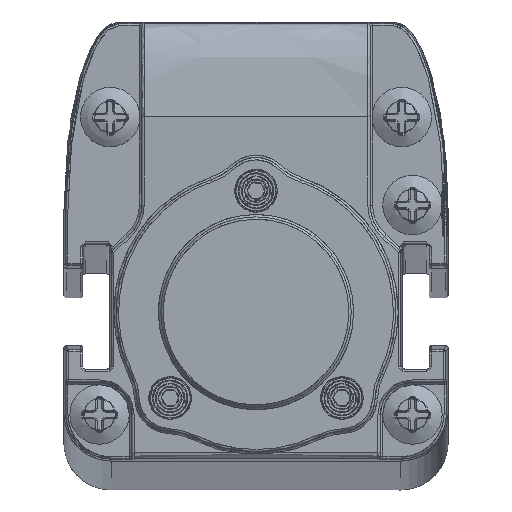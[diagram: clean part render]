
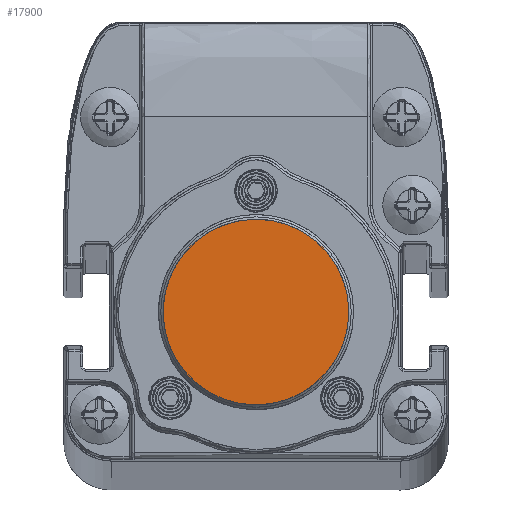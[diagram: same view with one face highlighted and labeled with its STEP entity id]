
A CAD part, top view. The second image highlights one B-rep face of the part: STEP entity #17900.
In plain terms, the highlighted planar face has unit normal (0, 0, 1).
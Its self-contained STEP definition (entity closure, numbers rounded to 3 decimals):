
#15149=B_SPLINE_CURVE_WITH_KNOTS('',3,(#62878,#62879,#62880,#62881,#62882,
#62883,#62884,#62885,#62886,#62887,#62888,#62889,#62890,#62891,#62892,#62893,
#62894,#62895,#62896,#62897,#62898,#62899,#62900,#62901,#62902,#62903,#62904,
#62905,#62906,#62907,#62908,#62909,#62910,#62911,#62912,#62913,#62914,#62915,
#62916,#62917,#62918,#62919,#62920,#62921,#62922,#62923,#62924,#62925,#62926,
#62927,#62928,#62929,#62930,#62931,#62932,#62933,#62934,#62935,#62936,#62937,
#62938,#62939,#62940,#62941,#62942,#62943,#62944,#62945,#62946,#62947,#62948,
#62949,#62950,#62951,#62952,#62953,#62954,#62955,#62956,#62957,#62958,#62959,
#62960,#62961,#62962,#62963,#62964,#62965,#62966,#62967,#62968,#62969,#62970,
#62971,#62972,#62973,#62974,#62975,#62976,#62977,#62978,#62979,#62980),
 .UNSPECIFIED.,.T.,.F.,(1,3,3,3,3,3,3,3,3,3,3,3,3,3,3,3,3,3,3,3,3,3,3,3,
3,3,3,3,3,3,3,3,3,3,3,3,1),(-0.029,0.,0.029,0.059,
0.088,0.118,0.147,0.176,
0.206,0.235,0.265,0.294,
0.324,0.353,0.382,0.412,
0.441,0.471,0.5,0.529,0.559,
0.588,0.618,0.647,0.676,
0.706,0.735,0.765,0.794,
0.824,0.853,0.882,0.912,
0.941,0.971,1.,1.029),.UNSPECIFIED.);
#17900=ADVANCED_FACE('',(#19885),#18796,.T.);
#18796=PLANE('',#43165);
#19885=FACE_OUTER_BOUND('',#21351,.T.);
#21351=EDGE_LOOP('',(#27620));
#27620=ORIENTED_EDGE('',*,*,#36541,.T.);
#31638=VERTEX_POINT('',#62981);
#36541=EDGE_CURVE('',#31638,#31638,#15149,.T.);
#43165=AXIS2_PLACEMENT_3D('',#62982,#47079,#47080);
#47079=DIRECTION('',(0.,0.,1.));
#47080=DIRECTION('',(1.,0.,0.));
#62878=CARTESIAN_POINT('',(7.8,0.,1433.24));
#62879=CARTESIAN_POINT('',(7.8,0.465,1433.24));
#62880=CARTESIAN_POINT('',(7.759,0.925,1433.24));
#62881=CARTESIAN_POINT('',(7.679,1.376,1433.24));
#62882=CARTESIAN_POINT('',(7.638,1.601,1433.24));
#62883=CARTESIAN_POINT('',(7.588,1.825,1433.24));
#62884=CARTESIAN_POINT('',(7.527,2.047,1433.24));
#62885=CARTESIAN_POINT('',(7.466,2.269,1433.24));
#62886=CARTESIAN_POINT('',(7.407,2.458,1433.24));
#62887=CARTESIAN_POINT('',(7.315,2.708,1433.24));
#62888=CARTESIAN_POINT('',(7.129,3.209,1433.24));
#62889=CARTESIAN_POINT('',(6.898,3.683,1433.24));
#62890=CARTESIAN_POINT('',(6.62,4.128,1433.24));
#62891=CARTESIAN_POINT('',(6.343,4.573,1433.24));
#62892=CARTESIAN_POINT('',(6.043,4.965,1433.24));
#62893=CARTESIAN_POINT('',(5.651,5.376,1433.24));
#62894=CARTESIAN_POINT('',(4.868,6.2,1433.24));
#62895=CARTESIAN_POINT('',(3.912,6.837,1433.24));
#62896=CARTESIAN_POINT('',(2.89,7.245,1433.24));
#62897=CARTESIAN_POINT('',(2.378,7.449,1433.24));
#62898=CARTESIAN_POINT('',(1.856,7.597,1433.24));
#62899=CARTESIAN_POINT('',(1.324,7.689,1433.24));
#62900=CARTESIAN_POINT('',(1.058,7.734,1433.24));
#62901=CARTESIAN_POINT('',(0.79,7.766,1433.24));
#62902=CARTESIAN_POINT('',(0.52,7.784,1433.24));
#62903=CARTESIAN_POINT('',(0.249,7.801,1433.24));
#62904=CARTESIAN_POINT('',(-0.055,7.804,1433.24));
#62905=CARTESIAN_POINT('',(-0.3,7.794,1433.24));
#62906=CARTESIAN_POINT('',(-0.79,7.775,1433.24));
#62907=CARTESIAN_POINT('',(-1.271,7.712,1433.24));
#62908=CARTESIAN_POINT('',(-1.742,7.604,1433.24));
#62909=CARTESIAN_POINT('',(-2.213,7.496,1433.24));
#62910=CARTESIAN_POINT('',(-2.713,7.327,1433.24));
#62911=CARTESIAN_POINT('',(-3.123,7.147,1433.24));
#62912=CARTESIAN_POINT('',(-3.534,6.968,1433.24));
#62913=CARTESIAN_POINT('',(-3.924,6.757,1433.24));
#62914=CARTESIAN_POINT('',(-4.293,6.513,1433.24));
#62915=CARTESIAN_POINT('',(-4.477,6.392,1433.24));
#62916=CARTESIAN_POINT('',(-4.656,6.262,1433.24));
#62917=CARTESIAN_POINT('',(-4.83,6.125,1433.24));
#62918=CARTESIAN_POINT('',(-5.004,5.987,1433.24));
#62919=CARTESIAN_POINT('',(-5.15,5.864,1433.24));
#62920=CARTESIAN_POINT('',(-5.337,5.688,1433.24));
#62921=CARTESIAN_POINT('',(-5.712,5.337,1433.24));
#62922=CARTESIAN_POINT('',(-6.047,4.956,1433.24));
#62923=CARTESIAN_POINT('',(-6.341,4.545,1433.24));
#62924=CARTESIAN_POINT('',(-6.635,4.134,1433.24));
#62925=CARTESIAN_POINT('',(-6.869,3.738,1433.24));
#62926=CARTESIAN_POINT('',(-7.102,3.226,1433.24));
#62927=CARTESIAN_POINT('',(-7.567,2.203,1433.24));
#62928=CARTESIAN_POINT('',(-7.8,1.124,1433.24));
#62929=CARTESIAN_POINT('',(-7.8,0.,1433.24));
#62930=CARTESIAN_POINT('',(-7.8,-0.562,1433.24));
#62931=CARTESIAN_POINT('',(-7.742,-1.113,1433.24));
#62932=CARTESIAN_POINT('',(-7.626,-1.651,1433.24));
#62933=CARTESIAN_POINT('',(-7.509,-2.189,1433.24));
#62934=CARTESIAN_POINT('',(-7.314,-2.758,1433.24));
#62935=CARTESIAN_POINT('',(-7.102,-3.226,1433.24));
#62936=CARTESIAN_POINT('',(-6.889,-3.694,1433.24));
#62937=CARTESIAN_POINT('',(-6.636,-4.134,1433.24));
#62938=CARTESIAN_POINT('',(-6.341,-4.544,1433.24));
#62939=CARTESIAN_POINT('',(-6.194,-4.75,1433.24));
#62940=CARTESIAN_POINT('',(-6.037,-4.947,1433.24));
#62941=CARTESIAN_POINT('',(-5.87,-5.138,1433.24));
#62942=CARTESIAN_POINT('',(-5.702,-5.329,1433.24));
#62943=CARTESIAN_POINT('',(-5.5,-5.535,1433.24));
#62944=CARTESIAN_POINT('',(-5.337,-5.688,1433.24));
#62945=CARTESIAN_POINT('',(-5.01,-5.995,1433.24));
#62946=CARTESIAN_POINT('',(-4.662,-6.27,1433.24));
#62947=CARTESIAN_POINT('',(-4.293,-6.513,1433.24));
#62948=CARTESIAN_POINT('',(-3.924,-6.756,1433.24));
#62949=CARTESIAN_POINT('',(-3.573,-6.951,1433.24));
#62950=CARTESIAN_POINT('',(-3.123,-7.147,1433.24));
#62951=CARTESIAN_POINT('',(-2.674,-7.344,1433.24));
#62952=CARTESIAN_POINT('',(-2.213,-7.496,1433.24));
#62953=CARTESIAN_POINT('',(-1.743,-7.604,1433.24));
#62954=CARTESIAN_POINT('',(-1.507,-7.658,1433.24));
#62955=CARTESIAN_POINT('',(-1.27,-7.701,1433.24));
#62956=CARTESIAN_POINT('',(-1.029,-7.732,1433.24));
#62957=CARTESIAN_POINT('',(-0.789,-7.764,1433.24));
#62958=CARTESIAN_POINT('',(-0.575,-7.784,1433.24));
#62959=CARTESIAN_POINT('',(-0.3,-7.794,1433.24));
#62960=CARTESIAN_POINT('',(0.801,-7.837,1433.24));
#62961=CARTESIAN_POINT('',(1.834,-7.666,1433.24));
#62962=CARTESIAN_POINT('',(2.89,-7.245,1433.24));
#62963=CARTESIAN_POINT('',(3.417,-7.035,1433.24));
#62964=CARTESIAN_POINT('',(3.912,-6.774,1433.24));
#62965=CARTESIAN_POINT('',(4.372,-6.462,1433.24));
#62966=CARTESIAN_POINT('',(4.833,-6.15,1433.24));
#62967=CARTESIAN_POINT('',(5.283,-5.763,1433.24));
#62968=CARTESIAN_POINT('',(5.651,-5.376,1433.24));
#62969=CARTESIAN_POINT('',(6.019,-4.989,1433.24));
#62970=CARTESIAN_POINT('',(6.342,-4.573,1433.24));
#62971=CARTESIAN_POINT('',(6.62,-4.128,1433.24));
#62972=CARTESIAN_POINT('',(6.759,-3.906,1433.24));
#62973=CARTESIAN_POINT('',(6.886,-3.676,1433.24));
#62974=CARTESIAN_POINT('',(7.002,-3.44,1433.24));
#62975=CARTESIAN_POINT('',(7.117,-3.203,1433.24));
#62976=CARTESIAN_POINT('',(7.234,-2.926,1433.24));
#62977=CARTESIAN_POINT('',(7.315,-2.708,1433.24));
#62978=CARTESIAN_POINT('',(7.638,-1.835,1433.24));
#62979=CARTESIAN_POINT('',(7.8,-0.933,1433.24));
#62980=CARTESIAN_POINT('',(7.8,0.,1433.24));
#62981=CARTESIAN_POINT('',(7.8,0.,1433.24));
#62982=CARTESIAN_POINT('',(-8.9,-8.81,1433.24));
